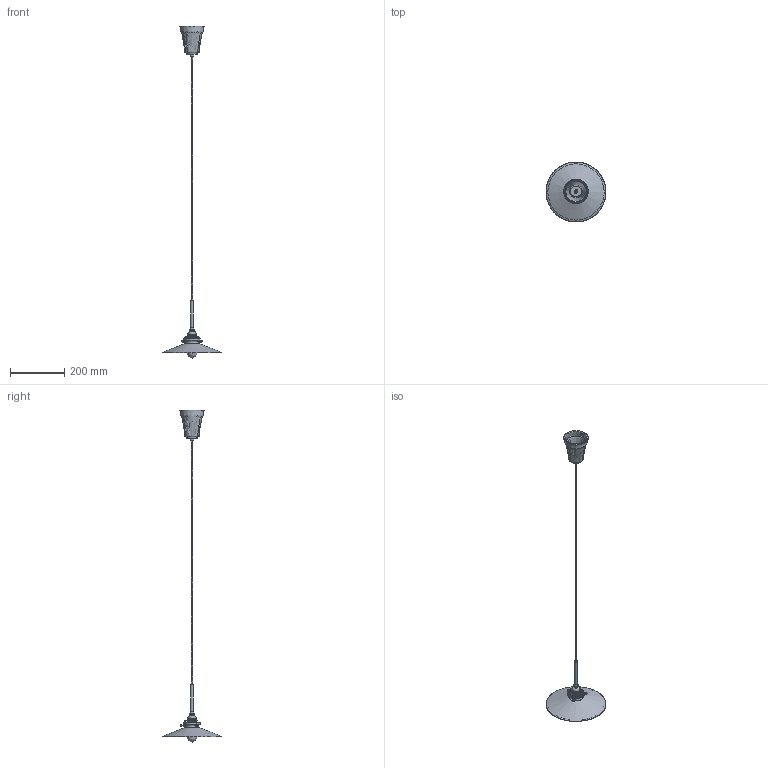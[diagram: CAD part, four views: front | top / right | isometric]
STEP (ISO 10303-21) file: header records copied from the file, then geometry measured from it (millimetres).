
FILE_DESCRIPTION(/* description */ (''),/* implementation_level */ '2;1');
FILE_NAME(/* name */ 'KINOSH~1',/* time_stamp */ '2022-04-08T14:52:04+09:00',/* author */ (''),/* organization */ (''),/* preprocessor_version */ 'ST-DEVELOPER v16.5',/* originating_system */ '',/* authorisation */ '');
FILE_SCHEMA (('AUTOMOTIVE_DESIGN'));
Products named in the file (1): Document
Bounding box: 220 x 220 x 1220 mm (x, y, z)
Volume: 263660.7 mm3; surface area: 171814.3 mm2
Topology: 12 solids, 18 shells, 7663 faces, 21564 edges, 13999 vertices
Faces by surface type: plane 4968, bspline 2695
Entity records: 279904 total; most frequent: CARTESIAN_POINT 147291, ORIENTED_EDGE 42400, EDGE_CURVE 21227, B_SPLINE_CURVE_WITH_KNOTS 16816, VERTEX_POINT 13605, EDGE_LOOP 7594, ADVANCED_FACE 7578, FACE_OUTER_BOUND 7578
